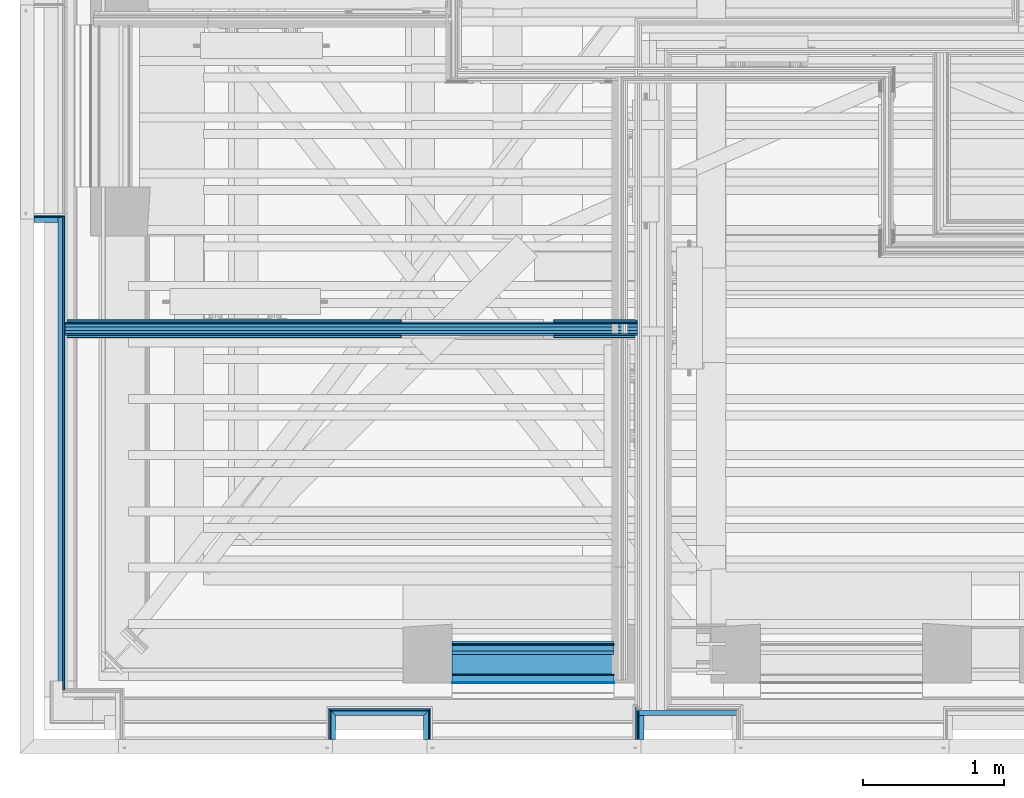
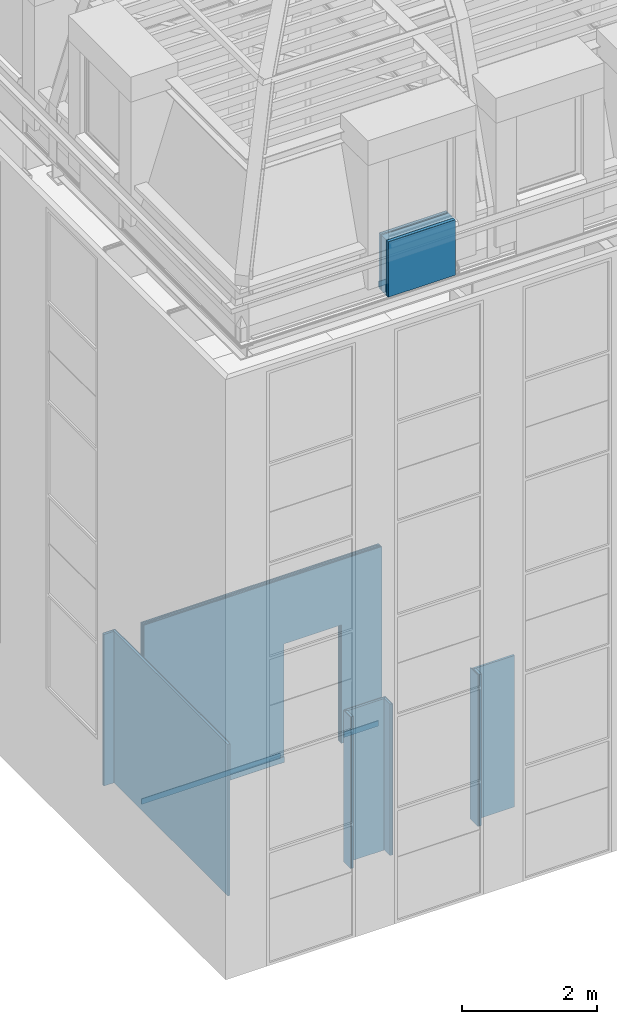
# One storey, part 26 of 183: 44 building element parts, 1 opening, 14 elements without a shape of their own.
"""IFC2X3 building model written with IfcOpenShell, lengths in metres."""

import ifcopenshell
import ifcopenshell.guid

model = None  # the IFC model being written
_history = None  # IfcOwnerHistory: only IFC2X3 demands one
_inside = {}  # id of a spatial element -> (the spatial element, [elements in it])
_under = {}  # id of a project, library or spatial element -> (it, [spatial elements below it])
_declared = {}  # id of a project -> (the project, [libraries it declares])
_typed = {}  # id of a type object -> (the type object, [elements of that type])
_made_of = {}  # id of a material, layer set ... -> (it, [elements and type objects made of it])


def new_model(schema):
    """Start an empty IFC model of exactly this schema.

    Asked for "IFC4X3", IfcOpenShell would pick the latest addendum, in which some entities
    have other attributes; the version numbers below select the first issue.
    IFC2X3 requires an IfcOwnerHistory on every rooted entity: one is made here for all.
    """
    global model, _history
    if schema == "IFC4X3":
        model = ifcopenshell.file(schema_version=(4, 3, 0, 0))
    else:
        model = ifcopenshell.file(schema=schema)
    _inside.clear()
    _under.clear()
    _declared.clear()
    _typed.clear()
    _made_of.clear()
    _history = None
    if model.schema == "IFC2X3":
        org = make("IfcOrganization", Name="unknown")
        user = make(
            "IfcPersonAndOrganization",
            ThePerson=make("IfcPerson", FamilyName="unknown"),
            TheOrganization=org,
        )
        app = make(
            "IfcApplication",
            ApplicationDeveloper=org,
            Version="unknown",
            ApplicationFullName="unknown",
            ApplicationIdentifier="unknown",
        )
        _history = make(
            "IfcOwnerHistory",
            OwningUser=user,
            OwningApplication=app,
            ChangeAction="ADDED",
            CreationDate=0,
        )
    return model


def make(cls, **values):
    """One entity of the class cls with the attributes given. An attribute that is None is left unset."""
    return model.create_entity(
        cls, **{name: value for name, value in values.items() if value is not None}
    )


def entity(cls, *values):
    """Any entity or typed value of the class cls, its attributes in the order of the schema. None: left unset."""
    e = model.create_entity(cls)
    for i, value in enumerate(values):
        if value is not None:
            e[i] = value
    return e


def rooted(cls, **values):
    """An entity with a GlobalId (a new one), such as an element, a storey or a relation."""
    return make(cls, GlobalId=ifcopenshell.guid.new(), OwnerHistory=_history, **values)


def si_unit(unit_type, name, prefix=None):
    """IfcSIUnit, for example si_unit("LENGTHUNIT", "METRE", prefix="MILLI")."""
    return make("IfcSIUnit", UnitType=unit_type, Prefix=prefix, Name=name)


def converted_unit(unit_type, name, factor, base, dimensions=None, offset=None):
    """IfcConversionBasedUnit, such as the inch: factor (a typed value) times the base unit."""
    return make(
        "IfcConversionBasedUnit"
        if offset is None
        else "IfcConversionBasedUnitWithOffset",
        ConversionOffset=offset,
        Dimensions=None
        if dimensions is None
        else entity("IfcDimensionalExponents", *dimensions),
        UnitType=unit_type,
        Name=name,
        ConversionFactor=make(
            "IfcMeasureWithUnit", ValueComponent=factor, UnitComponent=base
        ),
    )


def derived_unit(unit_type, elements):
    """IfcDerivedUnit: a product of units, each with its exponent."""
    return make(
        "IfcDerivedUnit",
        Elements=[
            make("IfcDerivedUnitElement", Unit=unit, Exponent=power)
            for unit, power in elements
        ],
        UnitType=unit_type,
    )


def money_unit(currency):
    """IfcMonetaryUnit."""
    return make("IfcMonetaryUnit", Currency=currency)


def assignment(units):
    """IfcUnitAssignment: the units of a project."""
    return None if units is None else make("IfcUnitAssignment", Units=units)


def point(xyz):
    """IfcCartesianPoint."""
    return None if xyz is None else make("IfcCartesianPoint", Coordinates=xyz)


def direction(xyz):
    """IfcDirection."""
    return None if xyz is None else make("IfcDirection", DirectionRatios=xyz)


def frame(location, z_axis=None, x_axis=None):
    """IfcAxis2Placement3D, a coordinate frame: its origin and axes. An axis left out is left unset."""
    return make(
        "IfcAxis2Placement3D",
        Location=point(location),
        Axis=direction(z_axis),
        RefDirection=direction(x_axis),
    )


def frame_2d(location, x_axis=None):
    """IfcAxis2Placement2D, a coordinate frame in the plane: its origin and x axis."""
    return make(
        "IfcAxis2Placement2D", Location=point(location), RefDirection=direction(x_axis)
    )


def origin_with_axes():
    """The frame at (0, 0, 0) with the z axis (0, 0, 1) and the x axis (1, 0, 0) written out."""
    return frame((0.0, 0.0, 0.0), z_axis=(0.0, 0.0, 1.0), x_axis=(1.0, 0.0, 0.0))


def place(relative_to, where):
    """IfcLocalPlacement: puts the frame where relative to a parent placement (None: the world)."""
    return make(
        "IfcLocalPlacement", PlacementRelTo=relative_to, RelativePlacement=where
    )


def context(
    kind, dimensions, precision=None, world=None, true_north=None, identifier=None
):
    """IfcGeometricRepresentationContext, for example the 3D "Model" context."""
    return make(
        "IfcGeometricRepresentationContext",
        ContextIdentifier=identifier,
        ContextType=kind,
        CoordinateSpaceDimension=dimensions,
        Precision=precision,
        WorldCoordinateSystem=world,
        TrueNorth=true_north,
    )


def subcontext(parent, identifier, kind, view, scale=None):
    """IfcGeometricRepresentationSubContext, for example "Body" below "Model"."""
    return make(
        "IfcGeometricRepresentationSubContext",
        ContextIdentifier=identifier,
        ContextType=kind,
        ParentContext=parent,
        TargetScale=scale,
        TargetView=view,
    )


def project(units=None, contexts=None):
    """IfcProject with its units and contexts."""
    return rooted(
        "IfcProject",
        Name="project",
        RepresentationContexts=contexts,
        UnitsInContext=assignment(units),
    )


def spatial(cls, under=None, at=None, **own):
    """A site, building, storey or space (cls), placed at a placement, below another one or the project."""
    s = rooted(cls, ObjectPlacement=at, **own)
    if under is not None:
        _under.setdefault(under.id(), (under, []))[1].append(s)
    return s


def polyline(points):
    """IfcPolyline through the points."""
    return make("IfcPolyline", Points=[point(p) for p in points])


def profile(cls, at=None, kind="AREA", **sizes):
    """A parametric profile (cls). Its sizes go by their IFC names, for example OverallWidth=200.0."""
    return make(cls, ProfileType=kind, Position=at, **sizes)


def rectangle(**sizes):
    """IfcRectangleProfileDef."""
    return profile("IfcRectangleProfileDef", **sizes)


def outline(outer, holes=None, kind="AREA"):
    """IfcArbitraryClosedProfileDef: a profile drawn as a closed curve; with holes, ...WithVoids."""
    if holes is None:
        return make("IfcArbitraryClosedProfileDef", ProfileType=kind, OuterCurve=outer)
    return make(
        "IfcArbitraryProfileDefWithVoids",
        ProfileType=kind,
        OuterCurve=outer,
        InnerCurves=holes,
    )


def extrude(swept, where, along, depth):
    """IfcExtrudedAreaSolid: the profile swept, set in the frame where, extruded along a direction by depth."""
    return make(
        "IfcExtrudedAreaSolid",
        SweptArea=swept,
        Position=where,
        ExtrudedDirection=direction(along),
        Depth=depth,
    )


def shape(context_of_items, identifier, shape_type, items):
    """IfcShapeRepresentation: the items that make up one representation, for example the "Body"."""
    return make(
        "IfcShapeRepresentation",
        ContextOfItems=context_of_items,
        RepresentationIdentifier=identifier,
        RepresentationType=shape_type,
        Items=items,
    )


def material(Name=None, Category=None):
    """IfcMaterial."""
    return make("IfcMaterial", Name=Name, Category=Category)


def made_of(thing, what):
    """Note that an element or type object is made of a material, layer set ...; save() writes the relation."""
    if what is not None:
        _made_of.setdefault(what.id(), (what, []))[1].append(thing)
    return thing


def type_object(cls, material=None, **own):
    """A type object (cls), such as IfcWallType, which elements share."""
    return made_of(rooted(cls, **own), material)


def element(
    cls,
    number,
    at=None,
    inside=None,
    cuts=None,
    type_object=None,
    material=None,
    context=None,
    identifier="Body",
    shape_type=None,
    held_by="IfcProductDefinitionShape",
    body=None,
    shapes=None,
    **own,
):
    """One element of the class cls, such as IfcWall. Its Tag is "e" and its number.

    at: its placement. inside: the storey or other place that contains it. cuts: it is an
    opening in that element (IfcRelVoidsElement). A single representation is given by context,
    identifier, shape_type and body (its items); several are given by shapes. held_by: the class
    of the entity that holds the representations. save() writes the other relations.
    """
    e = rooted(cls, Tag="e%d" % number, ObjectPlacement=at, **own)
    if body is not None:
        shapes = [shape(context, identifier, shape_type, body)]
    if shapes is not None:
        e.Representation = make(held_by, Representations=shapes)
    if inside is not None:
        _inside.setdefault(inside.id(), (inside, []))[1].append(e)
    if cuts is not None:
        rooted(
            "IfcRelVoidsElement", RelatingBuildingElement=cuts, RelatedOpeningElement=e
        )
    if type_object is not None:
        _typed.setdefault(type_object.id(), (type_object, []))[1].append(e)
    return made_of(e, material)


def aggregate(whole, parts):
    """IfcRelAggregates: a whole, such as a stair, and the parts it consists of."""
    return rooted("IfcRelAggregates", RelatingObject=whole, RelatedObjects=parts)


def save(model, path):
    """Write the relations noted so far, then the file.

    IfcRelAggregates (storeys below a building ...), IfcRelContainedInSpatialStructure (elements
    in a storey), IfcRelDefinesByType, IfcRelAssociatesMaterial and IfcRelDeclares: one each for
    every whole, place, type object, material and project.
    """
    for whole, parts in _under.values():
        aggregate(whole, parts)
    for where, things in _inside.values():
        rooted(
            "IfcRelContainedInSpatialStructure",
            RelatedElements=things,
            RelatingStructure=where,
        )
    for kind, things in _typed.values():
        rooted("IfcRelDefinesByType", RelatedObjects=things, RelatingType=kind)
    for what, things in _made_of.values():
        rooted("IfcRelAssociatesMaterial", RelatedObjects=things, RelatingMaterial=what)
    for by, libraries in _declared.values():
        rooted("IfcRelDeclares", RelatingContext=by, RelatedDefinitions=libraries)
    model.write(path)


model = new_model("IFC2X3")

# Units and contexts
model_context = context("Model", 3, precision=1e-05, world=origin_with_axes(), true_north=direction((0.0, 1.0)))
body_context = subcontext(model_context, "Body", "Model", "MODEL_VIEW", scale=1.0)
ifc_project = project(units=[si_unit("LENGTHUNIT", "METRE"), si_unit("AREAUNIT", "SQUARE_METRE"), si_unit("VOLUMEUNIT", "CUBIC_METRE"), si_unit("ABSORBEDDOSEUNIT", "GRAY"), si_unit("AMOUNTOFSUBSTANCEUNIT", "MOLE"), si_unit("DOSEEQUIVALENTUNIT", "SIEVERT"), si_unit("ELECTRICCAPACITANCEUNIT", "FARAD"), si_unit("ELECTRICCHARGEUNIT", "COULOMB"), si_unit("ELECTRICCONDUCTANCEUNIT", "SIEMENS"), si_unit("ELECTRICCURRENTUNIT", "AMPERE"), si_unit("ELECTRICRESISTANCEUNIT", "OHM"), si_unit("ELECTRICVOLTAGEUNIT", "VOLT"), si_unit("ENERGYUNIT", "JOULE"), si_unit("FORCEUNIT", "NEWTON"), si_unit("FREQUENCYUNIT", "HERTZ"), si_unit("ILLUMINANCEUNIT", "LUX"), si_unit("INDUCTANCEUNIT", "HENRY"), si_unit("LUMINOUSFLUXUNIT", "LUMEN"), si_unit("LUMINOUSINTENSITYUNIT", "CANDELA"), si_unit("MAGNETICFLUXDENSITYUNIT", "TESLA"), si_unit("MAGNETICFLUXUNIT", "WEBER"), si_unit("MASSUNIT", "GRAM"), converted_unit("PLANEANGLEUNIT", "degree", entity("IfcReal", 0.0174532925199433), si_unit("PLANEANGLEUNIT", "RADIAN"), dimensions=[0, 0, 0, 0, 0, 0, 0]), si_unit("POWERUNIT", "WATT"), si_unit("PRESSUREUNIT", "PASCAL"), si_unit("RADIOACTIVITYUNIT", "BECQUEREL"), si_unit("SOLIDANGLEUNIT", "STERADIAN"), si_unit("THERMODYNAMICTEMPERATUREUNIT", "KELVIN"), si_unit("TIMEUNIT", "SECOND"), derived_unit("ACCELERATIONUNIT", [(si_unit("LENGTHUNIT", "METRE"), 1), (si_unit("TIMEUNIT", "SECOND"), -2)]), derived_unit("ANGULARVELOCITYUNIT", [(converted_unit("PLANEANGLEUNIT", "degree", entity("IfcReal", 0.0174532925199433), si_unit("PLANEANGLEUNIT", "RADIAN"), dimensions=[0, 0, 0, 0, 0, 0, 0]), 1), (si_unit("TIMEUNIT", "SECOND"), -1)]), derived_unit("CURVATUREUNIT", [(converted_unit("PLANEANGLEUNIT", "degree", entity("IfcReal", 0.0174532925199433), si_unit("PLANEANGLEUNIT", "RADIAN"), dimensions=[0, 0, 0, 0, 0, 0, 0]), 1), (si_unit("LENGTHUNIT", "METRE"), -1)]), derived_unit("DYNAMICVISCOSITYUNIT", [(si_unit("PRESSUREUNIT", "PASCAL"), 1), (si_unit("TIMEUNIT", "SECOND"), 1)]), derived_unit("HEATFLUXDENSITYUNIT", [(si_unit("POWERUNIT", "WATT"), 1), (si_unit("LENGTHUNIT", "METRE"), -2)]), derived_unit("HEATINGVALUEUNIT", [(si_unit("ENERGYUNIT", "JOULE"), 1), (si_unit("MASSUNIT", "GRAM"), -1)]), derived_unit("INTEGERCOUNTRATEUNIT", [(si_unit("TIMEUNIT", "SECOND"), -1)]), derived_unit("IONCONCENTRATIONUNIT", [(si_unit("MASSUNIT", "GRAM"), 1), (si_unit("VOLUMEUNIT", "CUBIC_METRE"), -1)]), derived_unit("ISOTHERMALMOISTURECAPACITYUNIT", [(si_unit("VOLUMEUNIT", "CUBIC_METRE"), 1), (si_unit("MASSUNIT", "GRAM"), -1)]), derived_unit("KINEMATICVISCOSITYUNIT", [(si_unit("AREAUNIT", "SQUARE_METRE"), 1), (si_unit("TIMEUNIT", "SECOND"), -1)]), derived_unit("LINEARFORCEUNIT", [(si_unit("FORCEUNIT", "NEWTON"), 1), (si_unit("LENGTHUNIT", "METRE"), -1)]), derived_unit("LINEARMOMENTUNIT", [(si_unit("FORCEUNIT", "NEWTON"), 1), (si_unit("LENGTHUNIT", "METRE"), -1)]), derived_unit("LINEARSTIFFNESSUNIT", [(si_unit("FORCEUNIT", "NEWTON"), 1), (si_unit("LENGTHUNIT", "METRE"), -1)]), derived_unit("LINEARVELOCITYUNIT", [(si_unit("LENGTHUNIT", "METRE"), 1), (si_unit("TIMEUNIT", "SECOND"), -1)]), derived_unit("LUMINOUSINTENSITYDISTRIBUTIONUNIT", [(si_unit("LUMINOUSINTENSITYUNIT", "CANDELA"), 1), (si_unit("LUMINOUSFLUXUNIT", "LUMEN"), -1)]), derived_unit("MASSDENSITYUNIT", [(si_unit("MASSUNIT", "GRAM"), 1), (si_unit("VOLUMEUNIT", "CUBIC_METRE"), -1)]), derived_unit("MASSFLOWRATEUNIT", [(si_unit("MASSUNIT", "GRAM"), 1), (si_unit("TIMEUNIT", "SECOND"), -1)]), derived_unit("MASSPERLENGTHUNIT", [(si_unit("MASSUNIT", "GRAM"), 1), (si_unit("LENGTHUNIT", "METRE"), -1)]), derived_unit("MODULUSOFELASTICITYUNIT", [(si_unit("FORCEUNIT", "NEWTON"), 1), (si_unit("AREAUNIT", "SQUARE_METRE"), -1)]), derived_unit("MODULUSOFLINEARSUBGRADEREACTIONUNIT", [(si_unit("FORCEUNIT", "NEWTON"), 1), (si_unit("LENGTHUNIT", "METRE"), -2)]), derived_unit("MODULUSOFROTATIONALSUBGRADEREACTIONUNIT", [(si_unit("FORCEUNIT", "NEWTON"), 1), (si_unit("LENGTHUNIT", "METRE"), 1)]), derived_unit("MODULUSOFSUBGRADEREACTIONUNIT", [(si_unit("FORCEUNIT", "NEWTON"), 1), (si_unit("VOLUMEUNIT", "CUBIC_METRE"), -1)]), derived_unit("MOISTUREDIFFUSIVITYUNIT", [(si_unit("VOLUMEUNIT", "CUBIC_METRE"), 1), (si_unit("TIMEUNIT", "SECOND"), -1)]), derived_unit("MOLECULARWEIGHTUNIT", [(si_unit("MASSUNIT", "GRAM"), 1), (si_unit("AMOUNTOFSUBSTANCEUNIT", "MOLE"), -1)]), derived_unit("PLANARFORCEUNIT", [(si_unit("FORCEUNIT", "NEWTON"), 1), (si_unit("LENGTHUNIT", "METRE"), -2)]), derived_unit("ROTATIONALFREQUENCYUNIT", [(si_unit("TIMEUNIT", "SECOND"), -1)]), derived_unit("ROTATIONALMASSUNIT", [(si_unit("MASSUNIT", "GRAM"), 1), (si_unit("LENGTHUNIT", "METRE"), 2)]), derived_unit("ROTATIONALSTIFFNESSUNIT", [(si_unit("FORCEUNIT", "NEWTON"), 1), (si_unit("LENGTHUNIT", "METRE"), 1), (converted_unit("PLANEANGLEUNIT", "degree", entity("IfcReal", 0.0174532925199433), si_unit("PLANEANGLEUNIT", "RADIAN"), dimensions=[0, 0, 0, 0, 0, 0, 0]), -1)]), derived_unit("SECTIONAREAINTEGRALUNIT", [(si_unit("LENGTHUNIT", "METRE"), 5)]), derived_unit("SECTIONMODULUSUNIT", [(si_unit("LENGTHUNIT", "METRE"), 3)]), derived_unit("SHEARMODULUSUNIT", [(si_unit("FORCEUNIT", "NEWTON"), 1), (si_unit("AREAUNIT", "SQUARE_METRE"), -1)]), derived_unit("SOUNDPOWERUNIT", [(si_unit("ENERGYUNIT", "JOULE"), 1), (si_unit("TIMEUNIT", "SECOND"), -1)]), derived_unit("SPECIFICHEATCAPACITYUNIT", [(si_unit("FORCEUNIT", "NEWTON"), 1), (si_unit("MASSUNIT", "GRAM"), -1), (si_unit("THERMODYNAMICTEMPERATUREUNIT", "KELVIN"), -1)]), derived_unit("TEMPERATUREGRADIENTUNIT", [(si_unit("THERMODYNAMICTEMPERATUREUNIT", "KELVIN"), 1), (si_unit("LENGTHUNIT", "METRE"), -1)]), derived_unit("THERMALADMITTANCEUNIT", [(si_unit("POWERUNIT", "WATT"), 1), (si_unit("AREAUNIT", "SQUARE_METRE"), -1), (si_unit("THERMODYNAMICTEMPERATUREUNIT", "KELVIN"), -1)]), derived_unit("THERMALCONDUCTANCEUNIT", [(si_unit("POWERUNIT", "WATT"), 1), (si_unit("LENGTHUNIT", "METRE"), -1), (si_unit("THERMODYNAMICTEMPERATUREUNIT", "KELVIN"), -1)]), derived_unit("THERMALEXPANSIONCOEFFICIENTUNIT", [(si_unit("THERMODYNAMICTEMPERATUREUNIT", "KELVIN"), -1)]), derived_unit("THERMALRESISTANCEUNIT", [(si_unit("AREAUNIT", "SQUARE_METRE"), 1), (si_unit("POWERUNIT", "WATT"), -1)]), derived_unit("THERMALTRANSMITTANCEUNIT", [(si_unit("POWERUNIT", "WATT"), 1), (si_unit("AREAUNIT", "SQUARE_METRE"), -1), (si_unit("THERMODYNAMICTEMPERATUREUNIT", "KELVIN"), -1)]), derived_unit("TORQUEUNIT", [(si_unit("FORCEUNIT", "NEWTON"), 1), (si_unit("LENGTHUNIT", "METRE"), 1)]), derived_unit("VAPORPERMEABILITYUNIT", [(si_unit("MASSUNIT", "GRAM"), 1), (si_unit("TIMEUNIT", "SECOND"), -1)]), derived_unit("VOLUMETRICFLOWRATEUNIT", [(si_unit("VOLUMEUNIT", "CUBIC_METRE"), 1), (si_unit("TIMEUNIT", "SECOND"), -1)]), derived_unit("WARPINGCONSTANTUNIT", [(si_unit("LENGTHUNIT", "METRE"), 6)]), derived_unit("WARPINGMOMENTUNIT", [(si_unit("FORCEUNIT", "NEWTON"), 1), (si_unit("LENGTHUNIT", "METRE"), 2)]), money_unit("GBP")], contexts=[model_context])

# Site, building, storey
site_placement = place(None, origin_with_axes())
site = spatial("IfcSite", under=ifc_project, at=site_placement, Name="Site", CompositionType="ELEMENT")
building_placement = place(site_placement, origin_with_axes())
building = spatial("IfcBuilding", under=site, at=building_placement, Name="Building01", CompositionType="ELEMENT")
storey_placement = place(building_placement, frame((0.0, 0.0, 5.15), z_axis=(0.0, 0.0, 1.0), x_axis=(1.0, 0.0, 0.0)))
storey = spatial("IfcBuildingStorey", under=building, at=storey_placement, Name="1F", CompositionType="ELEMENT", Elevation=5.15)

# Wall, building element parts
wall_type_1 = type_object("IfcWallType", Name="SHE_A-Walls_Type06d_ExternalWallInsulation_48mm", PredefinedType="NOTDEFINED")
wall_1_placement = place(storey_placement, frame((2.243, 0.1, 0.0), z_axis=(0.0, 0.0, 1.0), x_axis=(0.0, 1.0, 0.0)))
wall_1 = element("IfcWall", 1, at=wall_1_placement, inside=storey, type_object=wall_type_1, Name="6D", ObjectType="SHE_A-Walls_Type06d_ExternalWallInsulation_48mm")
ifc_material_1 = material(Name="A_BSUK_Insulation")
placement_1 = place(wall_1_placement, origin_with_axes())
building_element_part_1 = element("IfcBuildingElementPart", 2, at=placement_1, material=ifc_material_1, Name="1", context=body_context, shape_type="SweptSolid", body=[
    extrude(outline(polyline([(0.206, 0.036), (0.0, 0.036), (0.0, 0.0), (0.17, 0.0), (0.206, 0.036)])), origin_with_axes(), (0.0, 0.0, 1.0), 2.74),
])
ifc_material_2 = material(Name="A_BSUK_WallInternal_Finishes_Plasterboard")
building_element_part_2 = element("IfcBuildingElementPart", 3, at=placement_1, material=ifc_material_2, Name="2", context=body_context, shape_type="SweptSolid", body=[
    extrude(outline(polyline([(0.218, 0.048), (0.0, 0.048), (0.0, 0.035), (0.205, 0.035), (0.218, 0.048)])), origin_with_axes(), (0.0, 0.0, 1.0), 2.74),
])
aggregate(wall_1, [building_element_part_1, building_element_part_2])

wall_2_placement = place(storey_placement, frame((2.243, 0.27, 0.0), z_axis=(0.0, 0.0, 1.0), x_axis=(1.0, 0.0, 0.0)))
wall_2 = element("IfcWall", 4, at=wall_2_placement, inside=storey, type_object=wall_type_1, Name="6D", ObjectType="SHE_A-Walls_Type06d_ExternalWallInsulation_48mm")
placement_2 = place(wall_2_placement, origin_with_axes())
building_element_part_3 = element("IfcBuildingElementPart", 5, at=placement_2, material=ifc_material_1, Name="1", context=body_context, shape_type="SweptSolid", body=[
    extrude(outline(polyline([(0.66, 0.036), (-0.036, 0.036), (0.0, 0.0), (0.624, 0.0), (0.66, 0.036)])), origin_with_axes(), (0.0, 0.0, 1.0), 2.74),
])
building_element_part_4 = element("IfcBuildingElementPart", 6, at=placement_2, material=ifc_material_2, Name="2", context=body_context, shape_type="SweptSolid", body=[
    extrude(outline(polyline([(0.672, 0.048), (-0.048, 0.048), (-0.035, 0.035), (0.659, 0.035), (0.672, 0.048)])), origin_with_axes(), (0.0, 0.0, 1.0), 2.74),
])
aggregate(wall_2, [building_element_part_3, building_element_part_4])

wall_3_placement = place(storey_placement, frame((2.867, 0.27, 0.0), z_axis=(0.0, 0.0, 1.0), x_axis=(0.0, -1.0, 0.0)))
wall_3 = element("IfcWall", 7, at=wall_3_placement, inside=storey, type_object=wall_type_1, Name="6D", ObjectType="SHE_A-Walls_Type06d_ExternalWallInsulation_48mm")
placement_3 = place(wall_3_placement, origin_with_axes())
building_element_part_5 = element("IfcBuildingElementPart", 8, at=placement_3, material=ifc_material_1, Name="1", context=body_context, shape_type="SweptSolid", body=[
    extrude(outline(polyline([(-0.036, 0.036), (0.0, 0.0), (0.17, 0.0), (0.17, 0.036), (-0.036, 0.036)])), origin_with_axes(), (0.0, 0.0, 1.0), 2.74),
])
building_element_part_6 = element("IfcBuildingElementPart", 9, at=placement_3, material=ifc_material_2, Name="2", context=body_context, shape_type="SweptSolid", body=[
    extrude(outline(polyline([(-0.048, 0.048), (-0.035, 0.035), (0.17, 0.035), (0.17, 0.048), (-0.048, 0.048)])), origin_with_axes(), (0.0, 0.0, 1.0), 2.74),
])
aggregate(wall_3, [building_element_part_5, building_element_part_6])

# Wall, opening, building element parts
wall_type_2 = type_object("IfcWallType", Name="SHE_A-Walls_Type05a_Partition_95mm_tall", PredefinedType="NOTDEFINED")
wall_4_placement = place(storey_placement, frame((0.318, 3.030286, 0.0), z_axis=(0.0, 0.0, 1.0), x_axis=(1.0, 0.0, 0.0)))
wall_4 = element("IfcWall", 10, at=wall_4_placement, inside=storey, type_object=wall_type_2, Name="5A", ObjectType="SHE_A-Walls_Type05a_Partition_95mm_tall")
opening_placement = place(wall_4_placement, frame((2.391, -0.075, -0.03), z_axis=(0.0, 0.0, 1.0), x_axis=(1.0, 0.0, 0.0)))
element("IfcOpeningElement", 11, at=opening_placement, cuts=wall_4, Name="Opening", ObjectType="Opening", context=body_context, shape_type="SweptSolid", body=[
    extrude(outline(polyline([(-0.984, 0.0), (-0.099, 0.0), (-0.099, 0.03), (0.0, 0.03), (0.0, 2.172), (-0.984, 2.172), (-0.984, 0.0)])), frame((0.0, 0.0, 0.0), z_axis=(0.0, 1.0, 0.0), x_axis=(-1.0, 0.0, 0.0)), (0.0, 0.0, 1.0), 0.125),
    extrude(rectangle(XDim=0.984, YDim=2.172, at=frame_2d((-0.492, 1.086), x_axis=(1.0, 0.0))), frame((0.0, 0.015, 0.0), z_axis=(0.0, 1.0, 0.0), x_axis=(-1.0, 0.0, 0.0)), (0.0, 0.0, 1.0), 0.012),
    extrude(outline(polyline([(-0.099, 0.03), (0.0, 0.03), (0.0, 2.172), (-0.984, 2.172), (-0.984, 2.142), (-1.083, 2.142), (-1.083, 0.0), (-0.099, 0.0), (-0.099, 0.03)])), frame((0.0, 0.0, 0.0), z_axis=(0.0, 1.0, 0.0), x_axis=(-1.0, 0.0, 0.0)), (0.0, 0.0, 1.0), 0.015),
    extrude(rectangle(XDim=0.984, YDim=2.172, at=frame_2d((-0.492, 1.086), x_axis=(1.0, 0.0))), frame((0.0, 0.027, 0.0), z_axis=(0.0, 1.0, 0.0), x_axis=(-1.0, 0.0, 0.0)), (0.0, 0.0, 1.0), 0.023),
    extrude(outline(polyline([(-0.984, 0.0), (-0.042, 0.0), (-0.042, 0.03), (0.0, 0.03), (0.0, 2.172), (-0.984, 2.172), (-0.984, 0.0)])), frame((0.0, 0.05, 0.0), z_axis=(0.0, 1.0, 0.0), x_axis=(-1.0, 0.0, 0.0)), (0.0, 0.0, 1.0), 0.025),
    extrude(outline(polyline([(-0.984, 0.0), (-0.042, 0.0), (-0.042, 0.03), (0.0, 0.03), (0.0, 2.172), (-0.984, 2.172), (-0.984, 0.0)])), frame((0.0, 0.075, 0.0), z_axis=(0.0, 1.0, 0.0), x_axis=(-1.0, 0.0, 0.0)), (0.0, 0.0, 1.0), 0.023),
    extrude(outline(polyline([(-0.984, 0.0), (-0.042, 0.0), (-0.042, 0.03), (0.0, 0.03), (0.0, 2.172), (-0.984, 2.172), (-0.984, 0.0)])), frame((0.0, 0.098, 0.0), z_axis=(0.0, 1.0, 0.0), x_axis=(-1.0, 0.0, 0.0)), (0.0, 0.0, 1.0), 0.012),
    extrude(outline(polyline([(-0.099, 0.03), (0.0, 0.03), (0.0, 2.172), (-0.984, 2.172), (-0.984, 2.142), (-1.083, 2.142), (-1.083, 0.0), (-0.099, 0.0), (-0.099, 0.03)])), frame((0.0, 0.11, 0.0), z_axis=(0.0, 1.0, 0.0), x_axis=(-1.0, 0.0, 0.0)), (0.0, 0.0, 1.0), 0.015),
])
ifc_material_3 = material(Name="A_BSUK_Walls_Timber")
placement_4 = place(wall_4_placement, origin_with_axes())
building_element_part_7 = element("IfcBuildingElementPart", 12, at=placement_4, material=ifc_material_3, Name="1", context=body_context, shape_type="SweptSolid", body=[
    extrude(rectangle(XDim=4.037, YDim=0.015, at=frame_2d((2.0335, -0.0675), x_axis=(-1.0, 0.0))), frame((0.0, 0.0, 0.015), z_axis=(0.0, 0.0, 1.0), x_axis=(1.0, 0.0, 0.0)), (0.0, 0.0, 1.0), 0.1),
])
building_element_part_8 = element("IfcBuildingElementPart", 13, at=placement_4, material=ifc_material_2, Name="2", context=body_context, shape_type="SweptSolid", body=[
    extrude(rectangle(XDim=4.067, YDim=0.012, at=frame_2d((2.0335, -0.054), x_axis=(-1.0, 0.0))), origin_with_axes(), (0.0, 0.0, 1.0), 3.32),
])
ifc_material_4 = material(Name="Air Cavity")
building_element_part_9 = element("IfcBuildingElementPart", 14, at=placement_4, material=ifc_material_4, Name="3", context=body_context, shape_type="SweptSolid", body=[
    extrude(rectangle(XDim=4.067, YDim=0.023, at=frame_2d((2.0335, -0.0365), x_axis=(-1.0, 0.0))), origin_with_axes(), (0.0, 0.0, 1.0), 3.32),
])
building_element_part_10 = element("IfcBuildingElementPart", 15, at=placement_4, material=ifc_material_1, Name="4", context=body_context, shape_type="SweptSolid", body=[
    extrude(rectangle(XDim=4.067, YDim=0.025, at=frame_2d((2.0335, -0.0125), x_axis=(-1.0, 0.0))), origin_with_axes(), (0.0, 0.0, 1.0), 3.32),
])
building_element_part_11 = element("IfcBuildingElementPart", 16, at=placement_4, material=ifc_material_4, Name="5", context=body_context, shape_type="SweptSolid", body=[
    extrude(rectangle(XDim=4.067, YDim=0.023, at=frame_2d((2.0335, 0.0115), x_axis=(-1.0, 0.0))), origin_with_axes(), (0.0, 0.0, 1.0), 3.32),
])
building_element_part_12 = element("IfcBuildingElementPart", 17, at=placement_4, material=ifc_material_2, Name="6", context=body_context, shape_type="SweptSolid", body=[
    extrude(rectangle(XDim=4.067, YDim=0.012, at=frame_2d((2.0335, 0.029), x_axis=(-1.0, 0.0))), origin_with_axes(), (0.0, 0.0, 1.0), 3.32),
])
building_element_part_13 = element("IfcBuildingElementPart", 18, at=placement_4, material=ifc_material_3, Name="7", context=body_context, shape_type="SweptSolid", body=[
    extrude(rectangle(XDim=4.052, YDim=0.015, at=frame_2d((2.041, 0.0425), x_axis=(-1.0, 0.0))), frame((0.0, 0.0, 0.015), z_axis=(0.0, 0.0, 1.0), x_axis=(1.0, 0.0, 0.0)), (0.0, 0.0, 1.0), 0.1),
])
aggregate(wall_4, [building_element_part_7, building_element_part_8, building_element_part_9, building_element_part_10, building_element_part_11, building_element_part_12, building_element_part_13])

# Wall, building element parts
wall_type_3 = type_object("IfcWallType", Name="SHE_A-Walls_Type06f_ExternalWallInsulation_48+15mm", PredefinedType="NOTDEFINED")
wall_5_placement = place(storey_placement, frame((4.433, 0.1, 0.0), z_axis=(0.0, 0.0, 1.0), x_axis=(0.0, 1.0, 0.0)))
wall_5 = element("IfcWall", 19, at=wall_5_placement, inside=storey, type_object=wall_type_3, Name="6F", ObjectType="SHE_A-Walls_Type06f_ExternalWallInsulation_48+15mm")
placement_5 = place(wall_5_placement, origin_with_axes())
building_element_part_14 = element("IfcBuildingElementPart", 20, at=placement_5, material=ifc_material_1, Name="1", context=body_context, shape_type="SweptSolid", body=[
    extrude(rectangle(XDim=0.17, YDim=0.036, at=frame_2d((0.085, 0.018), x_axis=(-1.0, 0.0))), origin_with_axes(), (0.0, 0.0, 1.0), 2.74),
])
building_element_part_15 = element("IfcBuildingElementPart", 21, at=placement_5, material=ifc_material_2, Name="2", context=body_context, shape_type="SweptSolid", body=[
    extrude(rectangle(XDim=0.206, YDim=0.012, at=frame_2d((0.103, 0.042), x_axis=(-1.0, 0.0))), origin_with_axes(), (0.0, 0.0, 1.0), 2.74),
])
building_element_part_16 = element("IfcBuildingElementPart", 22, at=placement_5, material=ifc_material_2, Name="3", context=body_context, shape_type="SweptSolid", body=[
    extrude(outline(polyline([(0.233, 0.063), (0.0, 0.063), (0.0, 0.048), (0.218, 0.048), (0.233, 0.063)])), origin_with_axes(), (0.0, 0.0, 1.0), 2.74),
])
aggregate(wall_5, [building_element_part_14, building_element_part_15, building_element_part_16])

# Wall, building element part
wall_6_placement = place(storey_placement, frame((4.397, 0.27, 0.0), z_axis=(0.0, 0.0, 1.0), x_axis=(1.0, 0.0, 0.0)))
wall_6 = element("IfcWall", 23, at=wall_6_placement, inside=storey, type_object=wall_type_3, Name="6F", ObjectType="SHE_A-Walls_Type06f_ExternalWallInsulation_48+15mm")
building_element_part_17_placement = place(wall_6_placement, origin_with_axes())
building_element_part_17 = element("IfcBuildingElementPart", 24, at=building_element_part_17_placement, material=ifc_material_1, Name="1", context=body_context, shape_type="SweptSolid", body=[
    extrude(rectangle(XDim=0.696, YDim=0.036, at=frame_2d((0.348, 0.018), x_axis=(-1.0, 0.0))), origin_with_axes(), (0.0, 0.0, 1.0), 2.74),
])
aggregate(wall_6, [building_element_part_17])

# Wall, building element parts
wall_7_placement = place(storey_placement, frame((0.27, 3.77418, 0.0), z_axis=(0.0, 0.0, 1.0), x_axis=(-1.0, 0.0, 0.0)))
wall_7 = element("IfcWall", 25, at=wall_7_placement, inside=storey, type_object=wall_type_1, Name="6D", ObjectType="SHE_A-Walls_Type06d_ExternalWallInsulation_48mm")
placement_6 = place(wall_7_placement, origin_with_axes())
building_element_part_18 = element("IfcBuildingElementPart", 26, at=placement_6, material=ifc_material_2, Name="2", context=body_context, shape_type="SweptSolid", body=[
    extrude(outline(polyline([(-0.035, -0.035), (-0.048, -0.048), (0.17, -0.048), (0.17, -0.035), (-0.035, -0.035)])), origin_with_axes(), (0.0, 0.0, 1.0), 2.74),
])
building_element_part_19 = element("IfcBuildingElementPart", 27, at=placement_6, material=ifc_material_1, Name="3", context=body_context, shape_type="SweptSolid", body=[
    extrude(rectangle(XDim=0.036, YDim=0.17, at=frame_2d((0.085, -0.018), x_axis=(0.0, -1.0))), origin_with_axes(), (0.0, 0.0, 1.0), 2.74),
])
aggregate(wall_7, [building_element_part_18, building_element_part_19])

wall_8_placement = place(storey_placement, frame((0.27, 3.81018, 0.0), z_axis=(0.0, 0.0, 1.0), x_axis=(0.0, -1.0, 0.0)))
wall_8 = element("IfcWall", 28, at=wall_8_placement, inside=storey, type_object=wall_type_1, Name="6D", ObjectType="SHE_A-Walls_Type06d_ExternalWallInsulation_48mm")
placement_7 = place(wall_8_placement, origin_with_axes())
building_element_part_20 = element("IfcBuildingElementPart", 29, at=placement_7, material=ifc_material_1, Name="1", context=body_context, shape_type="SweptSolid", body=[
    extrude(rectangle(XDim=3.41018, YDim=0.036, at=frame_2d((1.70509, 0.018), x_axis=(-1.0, 0.0))), origin_with_axes(), (0.0, 0.0, 1.0), 2.74),
])
building_element_part_21 = element("IfcBuildingElementPart", 30, at=placement_7, material=ifc_material_2, Name="2", context=body_context, shape_type="SweptSolid", body=[
    extrude(outline(polyline([(3.36218, 0.048), (-0.012, 0.048), (0.001, 0.035), (3.36218, 0.035), (3.36218, 0.048)])), origin_with_axes(), (0.0, 0.0, 1.0), 2.74),
])
aggregate(wall_8, [building_element_part_20, building_element_part_21])

wall_type_4 = type_object("IfcWallType", Name="SHE_A-Walls_Type06e_ExternalWallPenthouse_280mm", PredefinedType="NOTDEFINED")
wall_9_placement = place(storey_placement, frame((23.929976, 0.565, 9.78), z_axis=(0.0, 0.0, 1.0), x_axis=(-1.0, 0.0, 0.0)))
wall_9 = element("IfcWall", 31, at=wall_9_placement, inside=storey, type_object=wall_type_4, Name="6E", ObjectType="SHE_A-Walls_Type06e_ExternalWallPenthouse_280mm")
placement_8 = place(wall_9_placement, origin_with_axes())
building_element_part_22 = element("IfcBuildingElementPart", 32, at=placement_8, material=ifc_material_3, Name="6", context=body_context, shape_type="SweptSolid", body=[
    extrude(rectangle(XDim=1.149951, YDim=0.01, at=frame_2d((20.284951, 0.005), x_axis=(-1.0, 0.0))), origin_with_axes(), (0.0, 0.0, 1.0), 1.0),
])
building_element_part_23 = element("IfcBuildingElementPart", 33, at=placement_8, material=ifc_material_4, Name="7", context=body_context, shape_type="SweptSolid", body=[
    extrude(rectangle(XDim=1.149951, YDim=0.05, at=frame_2d((20.284951, 0.035), x_axis=(-1.0, 0.0))), origin_with_axes(), (0.0, 0.0, 1.0), 1.0),
])
ifc_material_5 = material(Name="A_BSUK_WallInternal_Finishes_Metal")
building_element_part_24 = element("IfcBuildingElementPart", 34, at=placement_8, material=ifc_material_5, Name="8", context=body_context, shape_type="SweptSolid", body=[
    extrude(rectangle(XDim=1.149951, YDim=0.005, at=frame_2d((20.284951, 0.0625), x_axis=(-1.0, 0.0))), origin_with_axes(), (0.0, 0.0, 1.0), 1.0),
])
aggregate(wall_9, [building_element_part_22, building_element_part_23, building_element_part_24])

wall_10_placement = place(storey_placement, frame((21.739976, 0.565, 9.78), z_axis=(0.0, 0.0, 1.0), x_axis=(-1.0, 0.0, 0.0)))
wall_10 = element("IfcWall", 35, at=wall_10_placement, inside=storey, type_object=wall_type_4, Name="6E", ObjectType="SHE_A-Walls_Type06e_ExternalWallPenthouse_280mm")
placement_9 = place(wall_10_placement, origin_with_axes())
building_element_part_25 = element("IfcBuildingElementPart", 36, at=placement_9, material=ifc_material_3, Name="6", context=body_context, shape_type="SweptSolid", body=[
    extrude(rectangle(XDim=1.149951, YDim=0.01, at=frame_2d((18.094951, 0.005), x_axis=(-1.0, 0.0))), origin_with_axes(), (0.0, 0.0, 1.0), 1.0),
])
building_element_part_26 = element("IfcBuildingElementPart", 37, at=placement_9, material=ifc_material_4, Name="7", context=body_context, shape_type="SweptSolid", body=[
    extrude(rectangle(XDim=1.149951, YDim=0.05, at=frame_2d((18.094951, 0.035), x_axis=(-1.0, 0.0))), origin_with_axes(), (0.0, 0.0, 1.0), 1.0),
])
building_element_part_27 = element("IfcBuildingElementPart", 38, at=placement_9, material=ifc_material_5, Name="8", context=body_context, shape_type="SweptSolid", body=[
    extrude(rectangle(XDim=1.149951, YDim=0.005, at=frame_2d((18.094951, 0.0625), x_axis=(-1.0, 0.0))), origin_with_axes(), (0.0, 0.0, 1.0), 1.0),
])
aggregate(wall_10, [building_element_part_25, building_element_part_26, building_element_part_27])

wall_11_placement = place(storey_placement, frame((19.549976, 0.565, 9.78), z_axis=(0.0, 0.0, 1.0), x_axis=(-1.0, 0.0, 0.0)))
wall_11 = element("IfcWall", 39, at=wall_11_placement, inside=storey, type_object=wall_type_4, Name="6E", ObjectType="SHE_A-Walls_Type06e_ExternalWallPenthouse_280mm")
placement_10 = place(wall_11_placement, origin_with_axes())
building_element_part_28 = element("IfcBuildingElementPart", 40, at=placement_10, material=ifc_material_3, Name="6", context=body_context, shape_type="SweptSolid", body=[
    extrude(rectangle(XDim=1.149951, YDim=0.01, at=frame_2d((15.904951, 0.005), x_axis=(-1.0, 0.0))), origin_with_axes(), (0.0, 0.0, 1.0), 1.0),
])
building_element_part_29 = element("IfcBuildingElementPart", 41, at=placement_10, material=ifc_material_4, Name="7", context=body_context, shape_type="SweptSolid", body=[
    extrude(rectangle(XDim=1.149951, YDim=0.05, at=frame_2d((15.904951, 0.035), x_axis=(-1.0, 0.0))), origin_with_axes(), (0.0, 0.0, 1.0), 1.0),
])
building_element_part_30 = element("IfcBuildingElementPart", 42, at=placement_10, material=ifc_material_5, Name="8", context=body_context, shape_type="SweptSolid", body=[
    extrude(rectangle(XDim=1.149951, YDim=0.005, at=frame_2d((15.904951, 0.0625), x_axis=(-1.0, 0.0))), origin_with_axes(), (0.0, 0.0, 1.0), 1.0),
])
aggregate(wall_11, [building_element_part_28, building_element_part_29, building_element_part_30])

wall_12_placement = place(storey_placement, frame((17.359976, 0.565, 9.78), z_axis=(0.0, 0.0, 1.0), x_axis=(-1.0, 0.0, 0.0)))
wall_12 = element("IfcWall", 43, at=wall_12_placement, inside=storey, type_object=wall_type_4, Name="6E", ObjectType="SHE_A-Walls_Type06e_ExternalWallPenthouse_280mm")
placement_11 = place(wall_12_placement, origin_with_axes())
building_element_part_31 = element("IfcBuildingElementPart", 44, at=placement_11, material=ifc_material_3, Name="6", context=body_context, shape_type="SweptSolid", body=[
    extrude(rectangle(XDim=1.149951, YDim=0.01, at=frame_2d((13.714951, 0.005), x_axis=(-1.0, 0.0))), origin_with_axes(), (0.0, 0.0, 1.0), 1.0),
])
building_element_part_32 = element("IfcBuildingElementPart", 45, at=placement_11, material=ifc_material_4, Name="7", context=body_context, shape_type="SweptSolid", body=[
    extrude(rectangle(XDim=1.149951, YDim=0.05, at=frame_2d((13.714951, 0.035), x_axis=(-1.0, 0.0))), origin_with_axes(), (0.0, 0.0, 1.0), 1.0),
])
building_element_part_33 = element("IfcBuildingElementPart", 46, at=placement_11, material=ifc_material_5, Name="8", context=body_context, shape_type="SweptSolid", body=[
    extrude(rectangle(XDim=1.149951, YDim=0.005, at=frame_2d((13.714951, 0.0625), x_axis=(-1.0, 0.0))), origin_with_axes(), (0.0, 0.0, 1.0), 1.0),
])
aggregate(wall_12, [building_element_part_31, building_element_part_32, building_element_part_33])

wall_13_placement = place(storey_placement, frame((15.169976, 0.565, 9.78), z_axis=(0.0, 0.0, 1.0), x_axis=(-1.0, 0.0, 0.0)))
wall_13 = element("IfcWall", 47, at=wall_13_placement, inside=storey, type_object=wall_type_4, Name="6E", ObjectType="SHE_A-Walls_Type06e_ExternalWallPenthouse_280mm")
placement_12 = place(wall_13_placement, origin_with_axes())
building_element_part_34 = element("IfcBuildingElementPart", 48, at=placement_12, material=ifc_material_3, Name="6", context=body_context, shape_type="SweptSolid", body=[
    extrude(rectangle(XDim=1.149951, YDim=0.01, at=frame_2d((11.524951, 0.005), x_axis=(-1.0, 0.0))), origin_with_axes(), (0.0, 0.0, 1.0), 1.0),
])
building_element_part_35 = element("IfcBuildingElementPart", 49, at=placement_12, material=ifc_material_4, Name="7", context=body_context, shape_type="SweptSolid", body=[
    extrude(rectangle(XDim=1.149951, YDim=0.05, at=frame_2d((11.524951, 0.035), x_axis=(-1.0, 0.0))), origin_with_axes(), (0.0, 0.0, 1.0), 1.0),
])
building_element_part_36 = element("IfcBuildingElementPart", 50, at=placement_12, material=ifc_material_5, Name="8", context=body_context, shape_type="SweptSolid", body=[
    extrude(rectangle(XDim=1.149951, YDim=0.005, at=frame_2d((11.524951, 0.0625), x_axis=(-1.0, 0.0))), origin_with_axes(), (0.0, 0.0, 1.0), 1.0),
])
aggregate(wall_13, [building_element_part_34, building_element_part_35, building_element_part_36])

wall_14_placement = place(storey_placement, frame((4.219976, 0.565, 9.78), z_axis=(0.0, 0.0, 1.0), x_axis=(-1.0, 0.0, 0.0)))
wall_14 = element("IfcWall", 51, at=wall_14_placement, inside=storey, type_object=wall_type_4, Name="6E", ObjectType="SHE_A-Walls_Type06e_ExternalWallPenthouse_280mm")
placement_13 = place(wall_14_placement, origin_with_axes())
building_element_part_37 = element("IfcBuildingElementPart", 52, at=placement_13, material=ifc_material_3, Name="1", context=body_context, shape_type="SweptSolid", body=[
    extrude(rectangle(XDim=1.149951, YDim=0.015, at=frame_2d((0.574976, -0.2225), x_axis=(-1.0, 0.0))), frame((0.0, 0.0, 0.015), z_axis=(0.0, 0.0, 1.0), x_axis=(1.0, 0.0, 0.0)), (0.0, 0.0, 1.0), 0.1),
])
building_element_part_38 = element("IfcBuildingElementPart", 53, at=placement_13, material=ifc_material_2, Name="2", context=body_context, shape_type="SweptSolid", body=[
    extrude(rectangle(XDim=1.149951, YDim=0.01, at=frame_2d((0.574976, -0.21), x_axis=(-1.0, 0.0))), origin_with_axes(), (0.0, 0.0, 1.0), 1.0),
])
building_element_part_39 = element("IfcBuildingElementPart", 54, at=placement_13, material=ifc_material_1, Name="3", context=body_context, shape_type="SweptSolid", body=[
    extrude(rectangle(XDim=1.149951, YDim=0.04, at=frame_2d((0.574976, -0.185), x_axis=(-1.0, 0.0))), origin_with_axes(), (0.0, 0.0, 1.0), 1.0),
])
building_element_part_40 = element("IfcBuildingElementPart", 55, at=placement_13, material=ifc_material_4, Name="4", context=body_context, shape_type="SweptSolid", body=[
    extrude(rectangle(XDim=1.149951, YDim=0.025, at=frame_2d((0.574976, -0.1525), x_axis=(-1.0, 0.0))), origin_with_axes(), (0.0, 0.0, 1.0), 1.0),
])
building_element_part_41 = element("IfcBuildingElementPart", 56, at=placement_13, material=ifc_material_1, Name="5", context=body_context, shape_type="SweptSolid", body=[
    extrude(rectangle(XDim=1.149951, YDim=0.14, at=frame_2d((0.574976, -0.07), x_axis=(-1.0, 0.0))), origin_with_axes(), (0.0, 0.0, 1.0), 1.0),
])
building_element_part_42 = element("IfcBuildingElementPart", 57, at=placement_13, material=ifc_material_3, Name="6", context=body_context, shape_type="SweptSolid", body=[
    extrude(rectangle(XDim=1.149951, YDim=0.01, at=frame_2d((0.574976, 0.005), x_axis=(-1.0, 0.0))), origin_with_axes(), (0.0, 0.0, 1.0), 1.0),
])
building_element_part_43 = element("IfcBuildingElementPart", 58, at=placement_13, material=ifc_material_4, Name="7", context=body_context, shape_type="SweptSolid", body=[
    extrude(rectangle(XDim=1.149951, YDim=0.05, at=frame_2d((0.574976, 0.035), x_axis=(-1.0, 0.0))), origin_with_axes(), (0.0, 0.0, 1.0), 1.0),
])
building_element_part_44 = element("IfcBuildingElementPart", 59, at=placement_13, material=ifc_material_5, Name="8", context=body_context, shape_type="SweptSolid", body=[
    extrude(rectangle(XDim=1.149951, YDim=0.005, at=frame_2d((0.574976, 0.0625), x_axis=(-1.0, 0.0))), origin_with_axes(), (0.0, 0.0, 1.0), 1.0),
])
aggregate(wall_14, [building_element_part_37, building_element_part_38, building_element_part_39, building_element_part_40, building_element_part_41, building_element_part_42, building_element_part_43, building_element_part_44])

save(model, "model.ifc")
